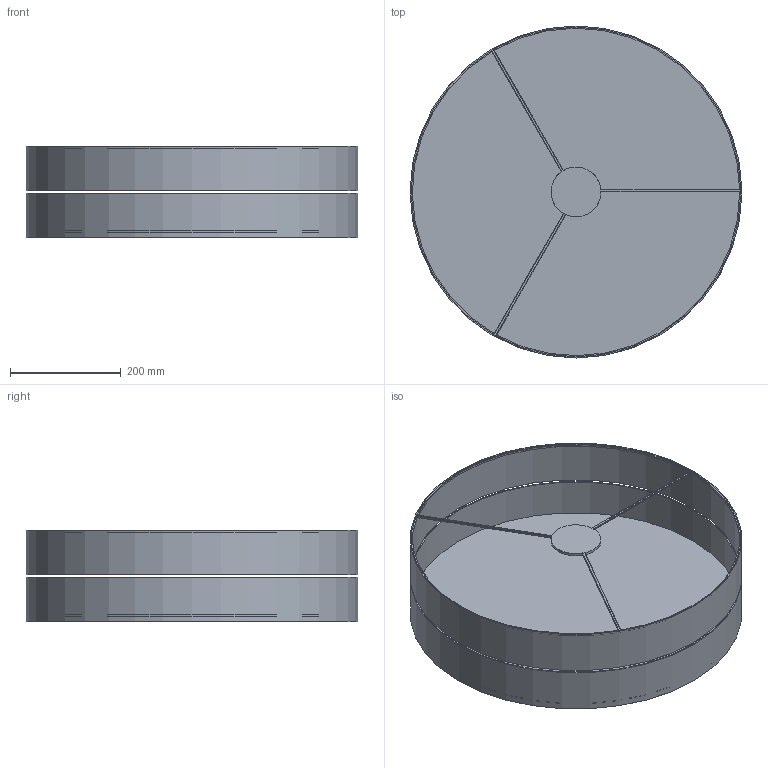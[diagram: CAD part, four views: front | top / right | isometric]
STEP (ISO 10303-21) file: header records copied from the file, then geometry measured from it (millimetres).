
FILE_DESCRIPTION(/* description */ (''),/* implementation_level */ '2;1');
FILE_NAME(/* name */ 'D:\TK Lighting\2021\_Hilton\Hilton 4345.stp',/* time_stamp */ '2021-04-02T11:52:40+02:00',/* author */ ('Admin'),/* organization */ (''),/* preprocessor_version */ 'ST-DEVELOPER v16.5',/* originating_system */ 'Autodesk Inventor 2017',/* authorisation */ '');
FILE_SCHEMA (('AUTOMOTIVE_DESIGN { 1 0 10303 214 3 1 1 }'));
Length unit declared in the file: millimetre
Products named in the file (1): Hilton 4345
Bounding box: 600 x 600 x 165 mm (x, y, z)
Volume: 1212803.4 mm3; surface area: 1202672 mm2
Topology: 2 solids, 2 shells, 42 faces, 106 edges, 70 vertices
Faces by surface type: cylinder 26, plane 16
Full cylindrical faces by diameter (mm): 90 x1, 596 x4, 600 x2
Entity records: 1453 total; most frequent: CARTESIAN_POINT 415, ORIENTED_EDGE 194, DIRECTION 187, EDGE_CURVE 97, AXIS2_PLACEMENT_3D 71, VERTEX_POINT 69, EDGE_LOOP 56, LINE 45
